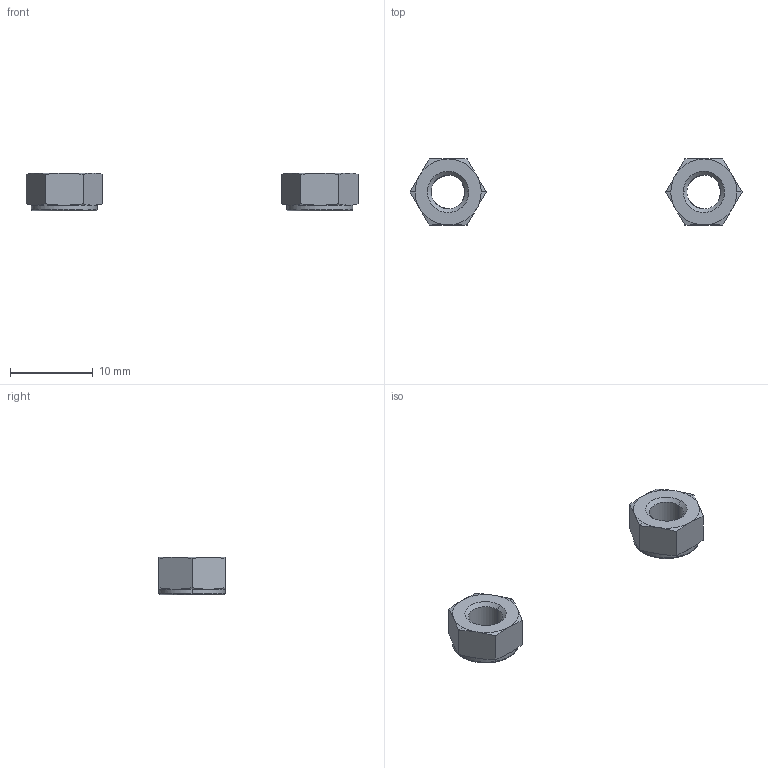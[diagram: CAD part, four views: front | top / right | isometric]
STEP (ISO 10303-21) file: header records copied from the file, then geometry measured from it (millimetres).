
FILE_DESCRIPTION(/* description */ (''),/* implementation_level */ '2;1');
FILE_NAME(/* name */ '10.optics-laser#10.3#PACK-UNUT5',/* time_stamp */ '2014-12-01T20:19:10+01:00',/* author */ (''),/* organization */ (''),/* preprocessor_version */ 'ST-DEVELOPER v14',/* originating_system */ '',/* authorisation */ '');
FILE_SCHEMA (('AUTOMOTIVE_DESIGN'));
Length unit declared in the file: millimetre
Products named in the file (2): Document; nut DIN985-like, lock, M5
Assembly tree (2 placements, depth 2):
  Document
    nut DIN985-like, lock, M5  x2
Bounding box: 40.24 x 8 x 4.6 mm (x, y, z)
Volume: 352 mm3; surface area: 543.5 mm2
Topology: 2 solids, 2 shells, 108 faces, 260 edges, 156 vertices
Faces by surface type: bspline 62, plane 46
Entity records: 3582 total; most frequent: CARTESIAN_POINT 1915, ORIENTED_EDGE 260, PCURVE 260, DEFINITIONAL_REPRESENTATION 260, B_SPLINE_CURVE_WITH_KNOTS 249, SURFACE_CURVE 130, EDGE_CURVE 130, VERTEX_POINT 78
